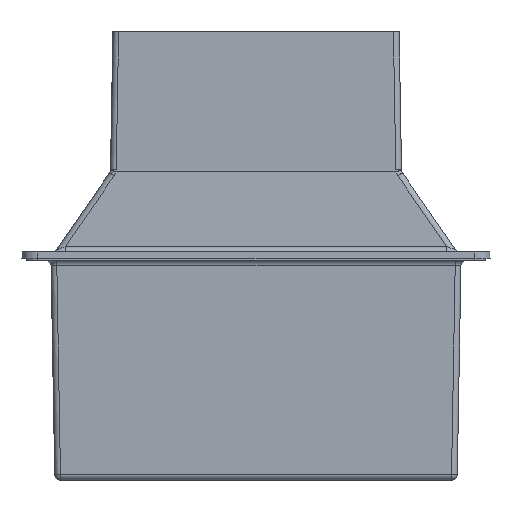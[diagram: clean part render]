
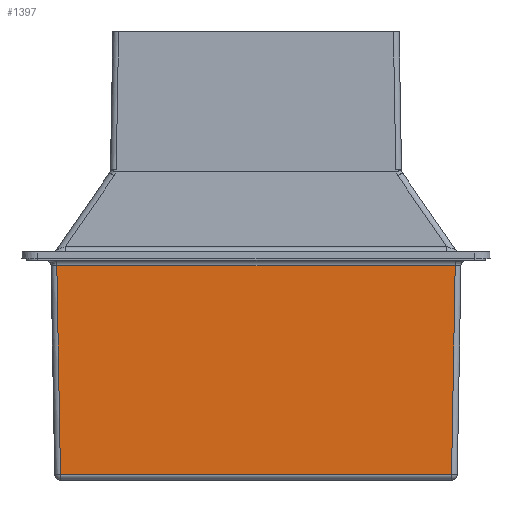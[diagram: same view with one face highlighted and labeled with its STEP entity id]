
A CAD part, left-side view. The second image highlights one B-rep face of the part: STEP entity #1397.
In plain terms, the highlighted planar face has unit normal (-1, 0, -0.018).
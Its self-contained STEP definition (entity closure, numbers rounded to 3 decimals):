
#267 = CARTESIAN_POINT ( 'NONE',  ( -667.856, -330.308, -161.437 ) ) ;
#269 = CARTESIAN_POINT ( 'NONE',  ( -674.198, -336.651, 201.912 ) ) ;
#272 = CARTESIAN_POINT ( 'NONE',  ( -674.198, 356.38, 201.912 ) ) ;
#273 = CARTESIAN_POINT ( 'NONE',  ( -667.856, 350.038, -161.437 ) ) ;
#1149 = EDGE_CURVE ( 'NONE', #2107, #2103, #3241, .T. ) ;
#1150 = EDGE_CURVE ( 'NONE', #2106, #2107, #3235, .T. ) ;
#1151 = EDGE_CURVE ( 'NONE', #2103, #2102, #3244, .T. ) ;
#1152 = EDGE_CURVE ( 'NONE', #2102, #2106, #3246, .T. ) ;
#1397 = ADVANCED_FACE ( 'NONE', ( #7140 ), #8415, .T. ) ;
#2102 = VERTEX_POINT ( 'NONE', #269 ) ;
#2103 = VERTEX_POINT ( 'NONE', #267 ) ;
#2106 = VERTEX_POINT ( 'NONE', #272 ) ;
#2107 = VERTEX_POINT ( 'NONE', #273 ) ;
#2343 = EDGE_LOOP ( 'NONE', ( #2524, #2522, #2525, #2526 ) ) ;
#2522 = ORIENTED_EDGE ( 'NONE', *, *, #1152, .T. ) ;
#2524 = ORIENTED_EDGE ( 'NONE', *, *, #1151, .T. ) ;
#2525 = ORIENTED_EDGE ( 'NONE', *, *, #1150, .T. ) ;
#2526 = ORIENTED_EDGE ( 'NONE', *, *, #1149, .T. ) ;
#3131 = CARTESIAN_POINT ( 'NONE',  ( -667.687, 349.869, -171.088 ) ) ;
#3145 = CARTESIAN_POINT ( 'NONE',  ( -667.856, 359.865, -161.437 ) ) ;
#3146 = DIRECTION ( 'NONE',  ( 0., -1., 0. ) ) ;
#3147 = DIRECTION ( 'NONE',  ( 0.017, -0.017, -1. ) ) ;
#3148 = CARTESIAN_POINT ( 'NONE',  ( -667.474, -329.927, -183.299 ) ) ;
#3149 = DIRECTION ( 'NONE',  ( -0.017, -0.017, 1. ) ) ;
#3150 = CARTESIAN_POINT ( 'NONE',  ( -674.198, 356.552, 201.912 ) ) ;
#3151 = DIRECTION ( 'NONE',  ( 0., 1., 0. ) ) ;
#3235 = LINE ( 'NONE', #3131, #3245 ) ;
#3241 = LINE ( 'NONE', #3145, #3243 ) ;
#3243 = VECTOR ( 'NONE', #3146, 1000. ) ;
#3244 = LINE ( 'NONE', #3148, #3247 ) ;
#3245 = VECTOR ( 'NONE', #3147, 1000. ) ;
#3246 = LINE ( 'NONE', #3150, #3249 ) ;
#3247 = VECTOR ( 'NONE', #3149, 1000. ) ;
#3249 = VECTOR ( 'NONE', #3151, 1000. ) ;
#7140 = FACE_OUTER_BOUND ( 'NONE', #2343, .T. ) ;
#7309 = AXIS2_PLACEMENT_3D ( 'NONE', #8423, #8424, #8425 ) ;
#8415 = PLANE ( 'NONE',  #7309 ) ;
#8423 = CARTESIAN_POINT ( 'NONE',  ( -667.684, 359.865, -171.263 ) ) ;
#8424 = DIRECTION ( 'NONE',  ( -1., 0., -0.017 ) ) ;
#8425 = DIRECTION ( 'NONE',  ( -0.017, 0., 1. ) ) ;
